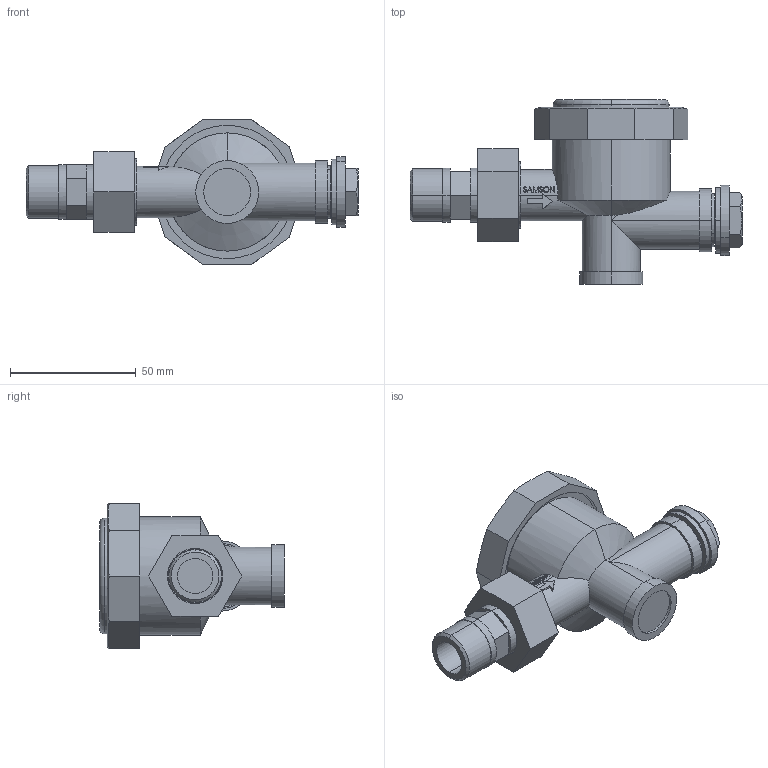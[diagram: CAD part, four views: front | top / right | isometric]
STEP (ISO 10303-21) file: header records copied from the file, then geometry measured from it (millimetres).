
FILE_DESCRIPTION (( 'STEP AP203' ), '1' );
FILE_NAME ('Typ13E_2013_AV_DIN_G1-2_#_#_#_std.STEP', '2010-06-21T12:41:18', ( '' ), ( '' ), 'SwSTEP 2.0', 'SolidWorks 2006303', '' );
FILE_SCHEMA (( 'CONFIG_CONTROL_DESIGN' ));
Length unit declared in the file: millimetre
Products named in the file (1): Typ13E_2013_AV_DIN_G1-2_#_#_#_std
Bounding box: 132 x 73.5 x 58 mm (x, y, z)
Volume: 138229.4 mm3; surface area: 46348.2 mm2
Topology: 8 solids, 8 shells, 348 faces, 847 edges, 549 vertices
Faces by surface type: plane 186, bspline 76, cylinder 64, cone 16, torus 6
Entity records: 14028 total; most frequent: CARTESIAN_POINT 6282, ORIENTED_EDGE 1694, DIRECTION 1359, EDGE_CURVE 847, VERTEX_POINT 549, VECTOR 459, LINE 459, AXIS2_PLACEMENT_3D 450
